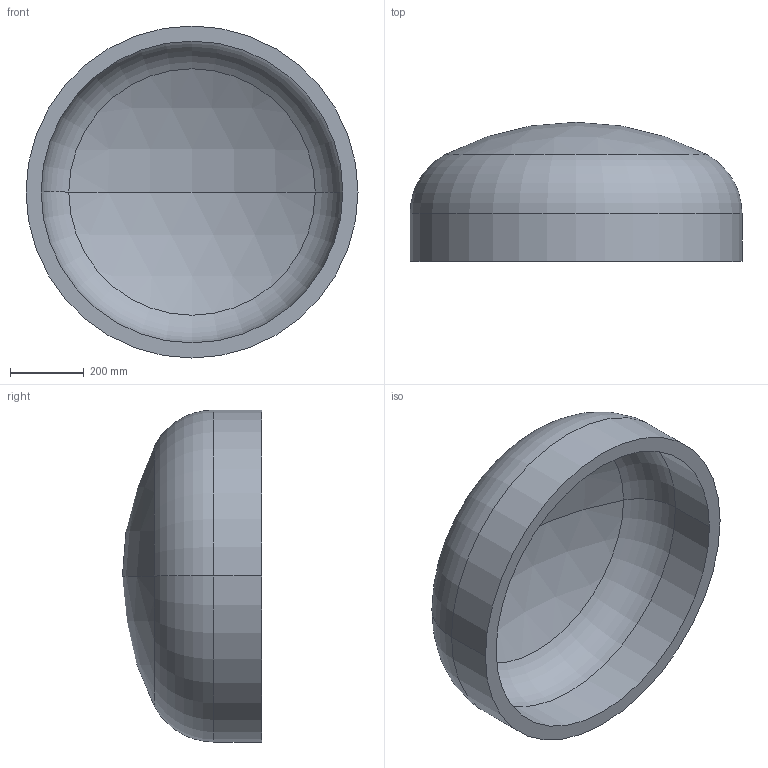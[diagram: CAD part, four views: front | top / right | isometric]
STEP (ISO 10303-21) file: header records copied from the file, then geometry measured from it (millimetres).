
FILE_DESCRIPTION (( 'STEP AP203' ), '1' );
FILE_NAME ('DIN 28013 Korbbogenform_-_Boden DIN 28013 - 900 x 130 - I - s=41.step', '2016-07-01T08:31:28', ( '' ), ( '' ), 'SwSTEP 2.0', 'SolidWorks 2013', '' );
FILE_SCHEMA (( 'CONFIG_CONTROL_DESIGN' ));
Length unit declared in the file: millimetre
Products named in the file (1): DIN 28013 Korbbogenform_-_Boden DIN 28013 - 900 x 130 - I - s=41
Bounding box: 900 x 377.15 x 900 mm (x, y, z)
Volume: 48517196.6 mm3; surface area: 2480856.4 mm2
Topology: 1 solids, 1 shells, 13 faces, 24 edges, 14 vertices
Faces by surface type: torus 4, cylinder 4, sphere 4, plane 1
Entity records: 407 total; most frequent: DIRECTION 72, CARTESIAN_POINT 52, ORIENTED_EDGE 48, AXIS2_PLACEMENT_3D 34, EDGE_CURVE 24, CIRCLE 20, EDGE_LOOP 14, VERTEX_POINT 14
